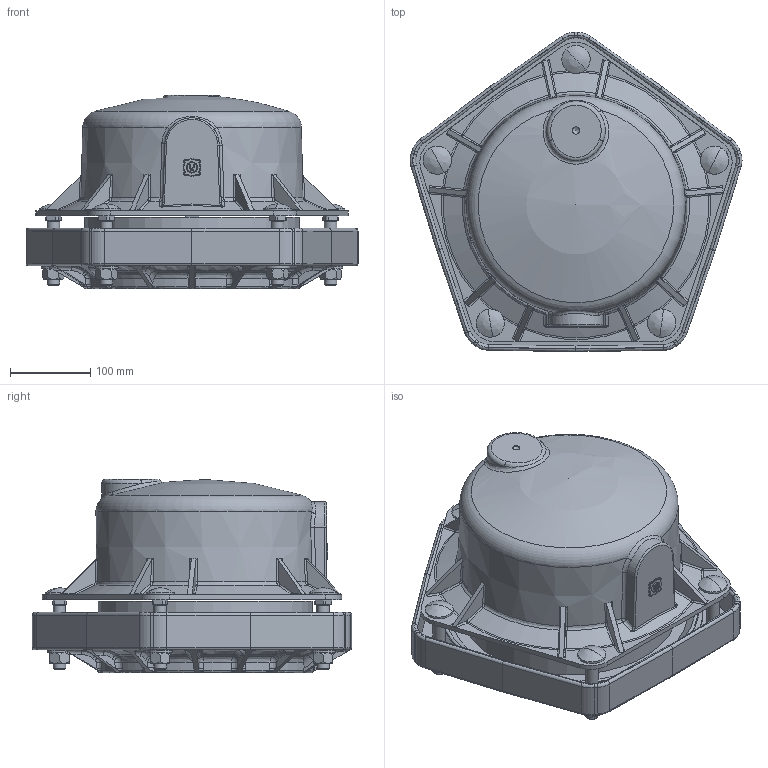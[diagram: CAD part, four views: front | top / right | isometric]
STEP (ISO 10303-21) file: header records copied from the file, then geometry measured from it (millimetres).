
FILE_DESCRIPTION((''),'2;1');
FILE_NAME('P:\Fastrack\54361_VIKING JOHNSON 3D\ULTRAGRIP\Component Parts\Components Built up\End-Cap\200MM-UltraGrip-End-Cap.stp','2012-04-24T09:47:25',('dcole'),(''),'Autodesk Inventor 2008','Autodesk Inventor 2008','');
FILE_SCHEMA(('AUTOMOTIVE_DESIGN { 1 0 10303 214 1 1 1 1 }'));
Length unit declared in the file: millimetre
Products named in the file (1): 200MM-UltraGrip-End-Cap
Bounding box: 414.55 x 398.7 x 241.28 mm (x, y, z)
Volume: 3014562 mm3; surface area: 854712.8 mm2
Topology: 1 solids, 1 shells, 1132 faces, 2896 edges, 1791 vertices
Faces by surface type: bspline 363, plane 339, cylinder 263, cone 114, torus 51, sphere 2
Full cylindrical faces by diameter (mm): 9 x1, 13 x1, 15.7 x10, 16 x5, 30 x5, 35.2 x5, 257 x1, 259 x4, 261 x1, 268 x1
Entity records: 57797 total; most frequent: CARTESIAN_POINT 31609, ORIENTED_EDGE 5572, DIRECTION 4638, EDGE_CURVE 2786, AXIS2_PLACEMENT_3D 1836, VERTEX_POINT 1758, EDGE_LOOP 1242, STYLED_ITEM 1132
